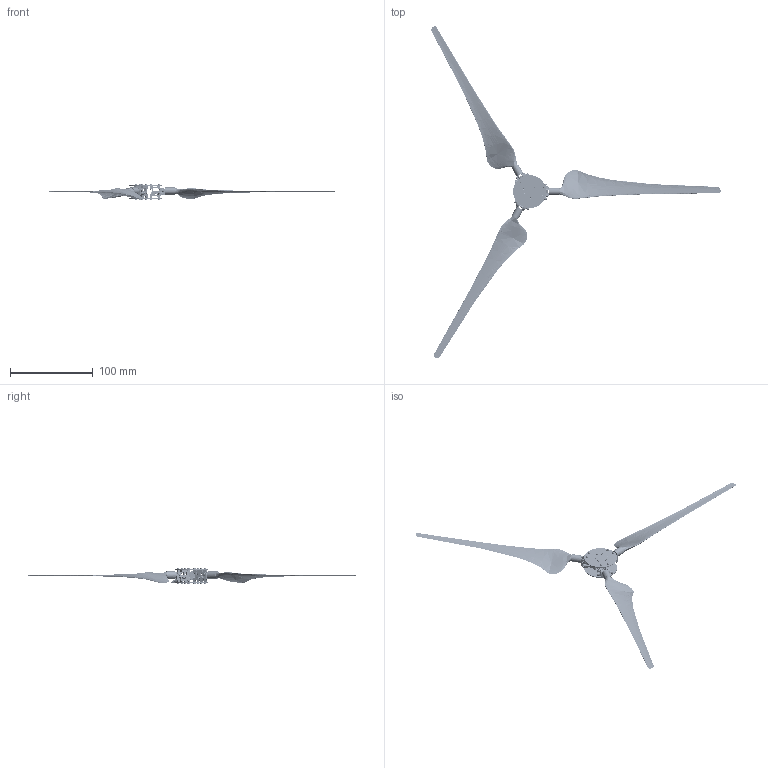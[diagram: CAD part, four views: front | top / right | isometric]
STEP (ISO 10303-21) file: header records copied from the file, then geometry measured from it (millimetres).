
FILE_DESCRIPTION(/* description */ (''),/* implementation_level */ '2;1');
FILE_NAME(/* name */ 'C:/Users/18rsc/Pictures/folding_wind_turbine.step',/* time_stamp */ '2022-02-04T18:45:33+00:00',/* author */ (''),/* organization */ (''),/* preprocessor_version */ 'ST-DEVELOPER v18.1',/* originating_system */ 'Autodesk Translation Framework v10.10.0.1391',/* authorisation */ '');
FILE_SCHEMA (('AUTOMOTIVE_DESIGN { 1 0 10303 214 3 1 1 }'));
Products named in the file (15): folding_wind_turbine; bladeFolding v1; 91290A039; 91290A039(Mirror); 91290A039(Mirror) (1); 91290A039(Mirror) (2); 91290A039(Mirror) (3); 91290A039(Mirror) (4); 91290A039(Mirror) (5); 91290A039(Mirror) (6); 91290A039(Mirror) (7); 91290A039(Mirror) (8); 91290A039(Mirror) (9); 91290A039(Mirror) (10); 91290A039(Mirror) (11)
Assembly tree (27 placements, depth 2):
  folding_wind_turbine
    bladeFolding v1  x3
    91290A039  x12
    91290A039(Mirror)
    91290A039(Mirror) (1)
    91290A039(Mirror) (2)
    91290A039(Mirror) (3)
    91290A039(Mirror) (4)
    91290A039(Mirror) (5)
    91290A039(Mirror) (6)
    91290A039(Mirror) (7)
    91290A039(Mirror) (8)
    91290A039(Mirror) (9)
    91290A039(Mirror) (10)
    91290A039(Mirror) (11)
Bounding box: 350.17 x 401.64 x 18.95 mm (x, y, z)
Volume: 24253.5 mm3; surface area: 35485.1 mm2
Topology: 36 solids, 48 shells, 3445 faces, 9261 edges, 5949 vertices
Faces by surface type: cylinder 2172, plane 748, cone 273, bspline 174, torus 78
Full cylindrical faces by diameter (mm): 1.01 x432, 1.4 x432, 1.5 x489, 1.672 x384, 2 x15, 2.188 x6, 2.5 x24, 3 x6, 3.091 x6, 3.688 x6, 4.091 x6, 5 x3, 7 x6, 9 x4, 40 x2
Entity records: 223245 total; most frequent: CARTESIAN_POINT 160172, ORIENTED_EDGE 14782, DIRECTION 10670, EDGE_CURVE 7391, VERTEX_POINT 4775, AXIS2_PLACEMENT_3D 3780, LINE 3110, VECTOR 3110
